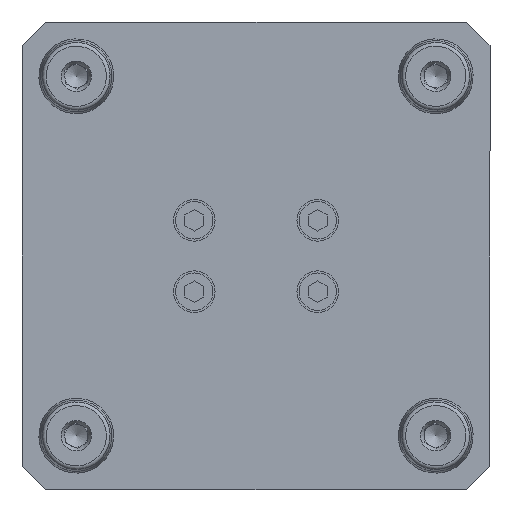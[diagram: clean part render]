
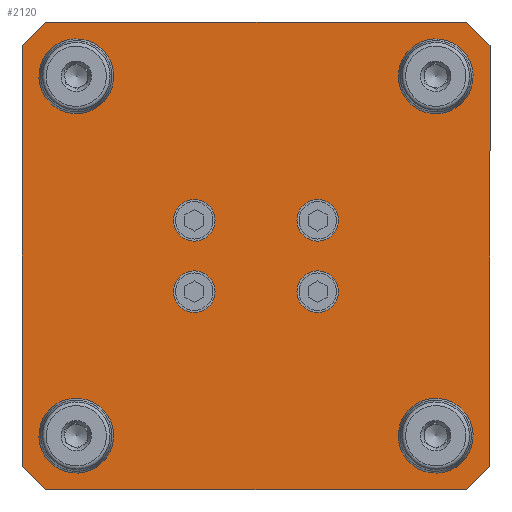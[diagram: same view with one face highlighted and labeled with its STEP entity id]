
A CAD part, front view. The second image highlights one B-rep face of the part: STEP entity #2120.
In plain terms, the highlighted planar face has unit normal (0, -1, 0).
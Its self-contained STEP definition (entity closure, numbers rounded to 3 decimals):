
#56 = EDGE_CURVE ( 'NONE', #5737, #4818, #242, .T. ) ;
#57 = VECTOR ( 'NONE', #10286, 1000. ) ;
#80 = EDGE_LOOP ( 'NONE', ( #9423, #1337, #1523, #3809, #513, #9837, #8354, #7603 ) ) ;
#130 = DIRECTION ( 'NONE',  ( 0., 0., 1. ) ) ;
#164 = VERTEX_POINT ( 'NONE', #10850 ) ;
#221 = EDGE_LOOP ( 'NONE', ( #2217 ) ) ;
#242 = LINE ( 'NONE', #1975, #5491 ) ;
#375 = EDGE_CURVE ( 'NONE', #739, #739, #8665, .T. ) ;
#426 = CARTESIAN_POINT ( 'NONE',  ( 0., 0., 0. ) ) ;
#444 = ORIENTED_EDGE ( 'NONE', *, *, #6865, .F. ) ;
#513 = ORIENTED_EDGE ( 'NONE', *, *, #9595, .F. ) ;
#538 = CARTESIAN_POINT ( 'NONE',  ( 62.5, 0., 56.15 ) ) ;
#554 = EDGE_LOOP ( 'NONE', ( #5868 ) ) ;
#597 = LINE ( 'NONE', #5736, #9273 ) ;
#602 = VERTEX_POINT ( 'NONE', #10118 ) ;
#739 = VERTEX_POINT ( 'NONE', #7144 ) ;
#782 = ORIENTED_EDGE ( 'NONE', *, *, #2640, .F. ) ;
#825 = DIRECTION ( 'NONE',  ( 0., -1., 0. ) ) ;
#877 = DIRECTION ( 'NONE',  ( -1., 0., 0. ) ) ;
#991 = AXIS2_PLACEMENT_3D ( 'NONE', #1875, #825, #130 ) ;
#1174 = EDGE_CURVE ( 'NONE', #7300, #602, #8599, .T. ) ;
#1337 = ORIENTED_EDGE ( 'NONE', *, *, #4396, .T. ) ;
#1370 = DIRECTION ( 'NONE',  ( 1., 0., 0. ) ) ;
#1523 = ORIENTED_EDGE ( 'NONE', *, *, #8900, .F. ) ;
#1533 = FACE_OUTER_BOUND ( 'NONE', #80, .T. ) ;
#1732 = EDGE_CURVE ( 'NONE', #6977, #6977, #10517, .T. ) ;
#1875 = CARTESIAN_POINT ( 'NONE',  ( -48., 0., -48. ) ) ;
#1897 = CARTESIAN_POINT ( 'NONE',  ( -16.498, 0., -15.081 ) ) ;
#1975 = CARTESIAN_POINT ( 'NONE',  ( 62.5, 0., -62.5 ) ) ;
#2120 = ADVANCED_FACE ( 'NONE', ( #6766, #4909, #4199, #9524, #7710, #4860, #4136, #1533, #5833 ), #2455, .F. ) ;
#2162 = DIRECTION ( 'NONE',  ( 0., -1., 0. ) ) ;
#2217 = ORIENTED_EDGE ( 'NONE', *, *, #2731, .F. ) ;
#2304 = VERTEX_POINT ( 'NONE', #5859 ) ;
#2449 = CARTESIAN_POINT ( 'NONE',  ( 56.15, 0., -62.5 ) ) ;
#2455 = PLANE ( 'NONE',  #9441 ) ;
#2485 = LINE ( 'NONE', #6804, #57 ) ;
#2499 = CARTESIAN_POINT ( 'NONE',  ( 48., 0., 48. ) ) ;
#2535 = DIRECTION ( 'NONE',  ( 0., 0., -1. ) ) ;
#2640 = EDGE_CURVE ( 'NONE', #164, #164, #6852, .T. ) ;
#2702 = DIRECTION ( 'NONE',  ( 0., 0., 1. ) ) ;
#2731 = EDGE_CURVE ( 'NONE', #3011, #3011, #11295, .T. ) ;
#2741 = LINE ( 'NONE', #6234, #9264 ) ;
#2799 = EDGE_CURVE ( 'NONE', #2831, #2831, #7790, .T. ) ;
#2831 = VERTEX_POINT ( 'NONE', #2888 ) ;
#2888 = CARTESIAN_POINT ( 'NONE',  ( 16.498, 0., -15.081 ) ) ;
#3011 = VERTEX_POINT ( 'NONE', #1897 ) ;
#3049 = VECTOR ( 'NONE', #11382, 1000. ) ;
#3127 = CARTESIAN_POINT ( 'NONE',  ( -48., 0., -39.99 ) ) ;
#3177 = CARTESIAN_POINT ( 'NONE',  ( -62.5, 0., -56.15 ) ) ;
#3181 = CARTESIAN_POINT ( 'NONE',  ( -16.498, 0., 9.525 ) ) ;
#3412 = DIRECTION ( 'NONE',  ( 0., 0., 1. ) ) ;
#3809 = ORIENTED_EDGE ( 'NONE', *, *, #1174, .T. ) ;
#3898 = CARTESIAN_POINT ( 'NONE',  ( -62.5, 0., -56.15 ) ) ;
#3984 = CIRCLE ( 'NONE', #6026, 8.01 ) ;
#4136 = FACE_BOUND ( 'NONE', #7397, .T. ) ;
#4142 = LINE ( 'NONE', #11173, #5664 ) ;
#4158 = DIRECTION ( 'NONE',  ( 0.707, 0., -0.707 ) ) ;
#4163 = ORIENTED_EDGE ( 'NONE', *, *, #1732, .F. ) ;
#4199 = FACE_BOUND ( 'NONE', #5188, .T. ) ;
#4309 = CIRCLE ( 'NONE', #5253, 5.556 ) ;
#4396 = EDGE_CURVE ( 'NONE', #10601, #7434, #2485, .T. ) ;
#4777 = CARTESIAN_POINT ( 'NONE',  ( 56.15, 0., 62.5 ) ) ;
#4818 = VERTEX_POINT ( 'NONE', #4877 ) ;
#4835 = EDGE_CURVE ( 'NONE', #6683, #6683, #4309, .T. ) ;
#4860 = FACE_BOUND ( 'NONE', #9849, .T. ) ;
#4877 = CARTESIAN_POINT ( 'NONE',  ( 62.5, 0., -56.15 ) ) ;
#4909 = FACE_BOUND ( 'NONE', #221, .T. ) ;
#5127 = VERTEX_POINT ( 'NONE', #2449 ) ;
#5188 = EDGE_LOOP ( 'NONE', ( #11014 ) ) ;
#5210 = CARTESIAN_POINT ( 'NONE',  ( -48., 0., 48. ) ) ;
#5253 = AXIS2_PLACEMENT_3D ( 'NONE', #9708, #7353, #2535 ) ;
#5302 = CARTESIAN_POINT ( 'NONE',  ( 62.5, 0., 56.15 ) ) ;
#5320 = DIRECTION ( 'NONE',  ( 0., -1., 0. ) ) ;
#5433 = DIRECTION ( 'NONE',  ( 0., 0., -1. ) ) ;
#5488 = DIRECTION ( 'NONE',  ( 0., -1., 0. ) ) ;
#5491 = VECTOR ( 'NONE', #9155, 1000. ) ;
#5520 = AXIS2_PLACEMENT_3D ( 'NONE', #3181, #10277, #6857 ) ;
#5547 = EDGE_LOOP ( 'NONE', ( #10158 ) ) ;
#5664 = VECTOR ( 'NONE', #9408, 1000. ) ;
#5723 = DIRECTION ( 'NONE',  ( 0., 0., -1. ) ) ;
#5736 = CARTESIAN_POINT ( 'NONE',  ( -62.5, 0., 62.5 ) ) ;
#5737 = VERTEX_POINT ( 'NONE', #5302 ) ;
#5744 = AXIS2_PLACEMENT_3D ( 'NONE', #5210, #5320, #8050 ) ;
#5790 = CARTESIAN_POINT ( 'NONE',  ( -56.15, 0., 62.5 ) ) ;
#5833 = FACE_BOUND ( 'NONE', #5547, .T. ) ;
#5859 = CARTESIAN_POINT ( 'NONE',  ( 48., 0., -56.01 ) ) ;
#5863 = VECTOR ( 'NONE', #4158, 1000. ) ;
#5868 = ORIENTED_EDGE ( 'NONE', *, *, #6086, .F. ) ;
#6026 = AXIS2_PLACEMENT_3D ( 'NONE', #8241, #2162, #5723 ) ;
#6086 = EDGE_CURVE ( 'NONE', #6856, #6856, #8996, .T. ) ;
#6234 = CARTESIAN_POINT ( 'NONE',  ( -62.5, 0., -62.5 ) ) ;
#6454 = EDGE_LOOP ( 'NONE', ( #4163 ) ) ;
#6472 = EDGE_CURVE ( 'NONE', #5127, #4818, #4142, .T. ) ;
#6683 = VERTEX_POINT ( 'NONE', #10392 ) ;
#6754 = EDGE_LOOP ( 'NONE', ( #6828 ) ) ;
#6766 = FACE_BOUND ( 'NONE', #6454, .T. ) ;
#6804 = CARTESIAN_POINT ( 'NONE',  ( -56.15, 0., 62.5 ) ) ;
#6828 = ORIENTED_EDGE ( 'NONE', *, *, #375, .F. ) ;
#6852 = CIRCLE ( 'NONE', #5744, 8.01 ) ;
#6856 = VERTEX_POINT ( 'NONE', #3127 ) ;
#6857 = DIRECTION ( 'NONE',  ( 0., 0., -1. ) ) ;
#6865 = EDGE_CURVE ( 'NONE', #2304, #2304, #3984, .T. ) ;
#6977 = VERTEX_POINT ( 'NONE', #7207 ) ;
#7009 = CARTESIAN_POINT ( 'NONE',  ( -62.5, 0., 56.15 ) ) ;
#7116 = DIRECTION ( 'NONE',  ( 0., -1., 0. ) ) ;
#7144 = CARTESIAN_POINT ( 'NONE',  ( 48., 0., 56.01 ) ) ;
#7207 = CARTESIAN_POINT ( 'NONE',  ( -16.498, 0., 3.969 ) ) ;
#7300 = VERTEX_POINT ( 'NONE', #3898 ) ;
#7353 = DIRECTION ( 'NONE',  ( 0., -1., 0. ) ) ;
#7397 = EDGE_LOOP ( 'NONE', ( #782 ) ) ;
#7434 = VERTEX_POINT ( 'NONE', #7009 ) ;
#7603 = ORIENTED_EDGE ( 'NONE', *, *, #7862, .T. ) ;
#7710 = FACE_BOUND ( 'NONE', #554, .T. ) ;
#7745 = AXIS2_PLACEMENT_3D ( 'NONE', #2499, #10351, #3412 ) ;
#7790 = CIRCLE ( 'NONE', #7976, 5.556 ) ;
#7820 = LINE ( 'NONE', #538, #3049 ) ;
#7862 = EDGE_CURVE ( 'NONE', #5737, #10283, #7820, .T. ) ;
#7959 = LINE ( 'NONE', #11409, #11419 ) ;
#7976 = AXIS2_PLACEMENT_3D ( 'NONE', #10820, #5488, #5433 ) ;
#8003 = CARTESIAN_POINT ( 'NONE',  ( -16.498, 0., -9.525 ) ) ;
#8050 = DIRECTION ( 'NONE',  ( 0., 0., -1. ) ) ;
#8241 = CARTESIAN_POINT ( 'NONE',  ( 48., 0., -48. ) ) ;
#8354 = ORIENTED_EDGE ( 'NONE', *, *, #56, .F. ) ;
#8599 = LINE ( 'NONE', #3177, #5863 ) ;
#8665 = CIRCLE ( 'NONE', #7745, 8.01 ) ;
#8900 = EDGE_CURVE ( 'NONE', #7300, #7434, #7959, .T. ) ;
#8996 = CIRCLE ( 'NONE', #991, 8.01 ) ;
#9155 = DIRECTION ( 'NONE',  ( 0., 0., -1. ) ) ;
#9264 = VECTOR ( 'NONE', #877, 1000. ) ;
#9273 = VECTOR ( 'NONE', #1370, 1000. ) ;
#9408 = DIRECTION ( 'NONE',  ( 0.707, 0., 0.707 ) ) ;
#9423 = ORIENTED_EDGE ( 'NONE', *, *, #10648, .F. ) ;
#9441 = AXIS2_PLACEMENT_3D ( 'NONE', #426, #9467, #10368 ) ;
#9467 = DIRECTION ( 'NONE',  ( 0., 1., 0. ) ) ;
#9524 = FACE_BOUND ( 'NONE', #6754, .T. ) ;
#9580 = DIRECTION ( 'NONE',  ( 0., 0., -1. ) ) ;
#9595 = EDGE_CURVE ( 'NONE', #5127, #602, #2741, .T. ) ;
#9708 = CARTESIAN_POINT ( 'NONE',  ( 16.498, 0., 9.525 ) ) ;
#9837 = ORIENTED_EDGE ( 'NONE', *, *, #6472, .T. ) ;
#9838 = AXIS2_PLACEMENT_3D ( 'NONE', #8003, #7116, #9580 ) ;
#9849 = EDGE_LOOP ( 'NONE', ( #444 ) ) ;
#10118 = CARTESIAN_POINT ( 'NONE',  ( -56.15, 0., -62.5 ) ) ;
#10158 = ORIENTED_EDGE ( 'NONE', *, *, #2799, .F. ) ;
#10277 = DIRECTION ( 'NONE',  ( 0., -1., 0. ) ) ;
#10283 = VERTEX_POINT ( 'NONE', #4777 ) ;
#10286 = DIRECTION ( 'NONE',  ( -0.707, 0., -0.707 ) ) ;
#10351 = DIRECTION ( 'NONE',  ( 0., -1., 0. ) ) ;
#10368 = DIRECTION ( 'NONE',  ( 0., 0., 1. ) ) ;
#10392 = CARTESIAN_POINT ( 'NONE',  ( 16.498, 0., 3.969 ) ) ;
#10517 = CIRCLE ( 'NONE', #5520, 5.556 ) ;
#10601 = VERTEX_POINT ( 'NONE', #5790 ) ;
#10648 = EDGE_CURVE ( 'NONE', #10601, #10283, #597, .T. ) ;
#10820 = CARTESIAN_POINT ( 'NONE',  ( 16.498, 0., -9.525 ) ) ;
#10850 = CARTESIAN_POINT ( 'NONE',  ( -48., 0., 39.99 ) ) ;
#11014 = ORIENTED_EDGE ( 'NONE', *, *, #4835, .F. ) ;
#11173 = CARTESIAN_POINT ( 'NONE',  ( 56.15, 0., -62.5 ) ) ;
#11295 = CIRCLE ( 'NONE', #9838, 5.556 ) ;
#11382 = DIRECTION ( 'NONE',  ( -0.707, 0., 0.707 ) ) ;
#11409 = CARTESIAN_POINT ( 'NONE',  ( -62.5, 0., -62.5 ) ) ;
#11419 = VECTOR ( 'NONE', #2702, 1000. ) ;
